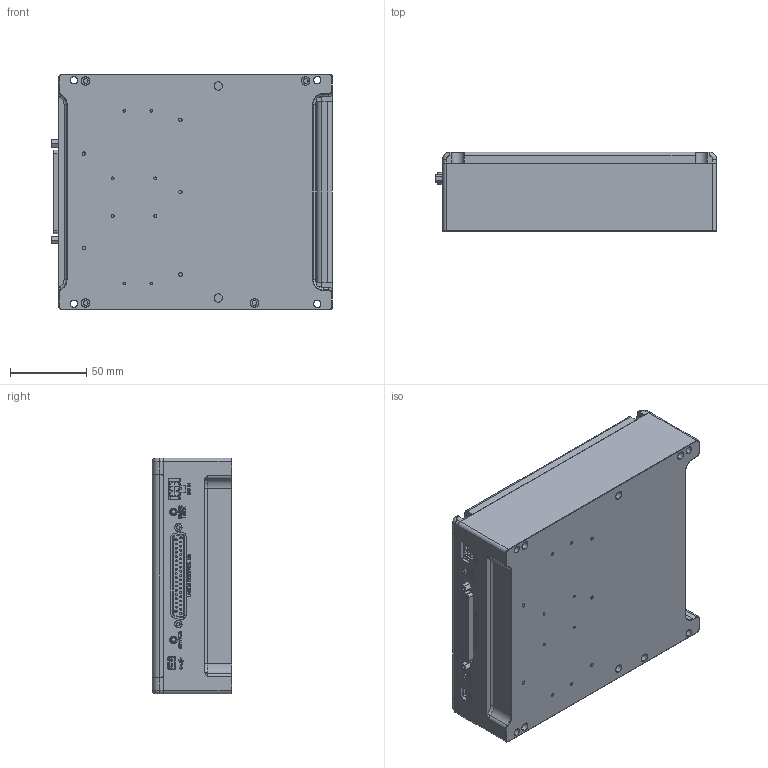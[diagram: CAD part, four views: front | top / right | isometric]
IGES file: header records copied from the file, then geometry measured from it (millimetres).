
Start section: SolidWorks IGES file using analytic representation for surfaces
Global section: file name: N:\POR\Eng\SolidWorksVault\FILES_DAN_LEWIS\Catalog files\CellX\CellX.IGS; native system: SolidWorks 2016; preprocessor: SolidWorks 2016; author: LewisD; date: 170106.130243; units: inch
Bounding box: 184.75 x 52.2 x 155 mm (x, y, z)
Surface area: 124685.8 mm2 (no closed solid volume)
Topology: 0 solids, 0 shells, 754 faces, 14732 edges, 14728 vertices
Faces by surface type: bspline 483, revolution 271
